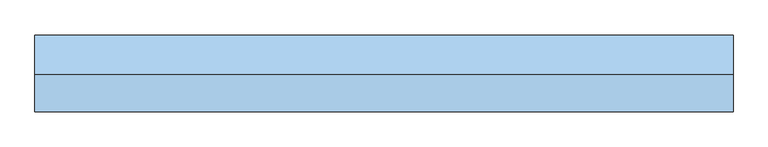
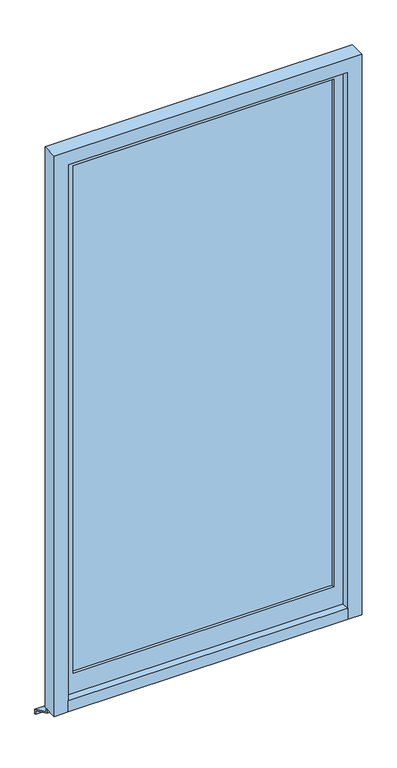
"""IFC4 building model written with IfcOpenShell, lengths in millimetres: window geometry, 380_片開窓_01 : AW2-H2430W1200."""

from ifc_helpers import new_model, si_unit, frame, origin, place, context, project, spatial, polyline, outline, extrude, source, transform, mapped, element, save


def window_c87d65a8(model_context):
    return source(origin(), model_context, "Body", "SweptSolid", [
        extrude(outline(polyline([(2.5, 835.0), (87.5, 795.0), (87.5, 775.0), (82.5014518, 775.0), (82.5014518, 791.8262891), (-2.5, 831.8269723), (-2.5, 850.0), (2.5, 850.0), (2.5, 835.0)])), frame((-660.0, 0.0, 0.0), z_axis=(1.0, 0.0, 0.0), x_axis=(0.0, 1.0, 0.0)), (0.0, 0.0, 1.0), 1320.0),
        extrude(outline(polyline([(560.0, -10.0), (-560.0, -10.0), (-560.0, -5.0), (560.0, -5.0), (560.0, -10.0)])), frame((0.0, 0.0, 990.0), z_axis=(0.0, 0.0, 1.0), x_axis=(1.0, 0.0, 0.0)), (0.0, 0.0, 1.0), 2300.0),
        extrude(outline(polyline([(3330.0, 600.0), (3330.0, -600.0), (900.0, -600.0), (900.0, 600.0), (3330.0, 600.0)]), holes=[polyline([(3290.0, 560.0), (990.0, 560.0), (990.0, -560.0), (3290.0, -560.0), (3290.0, 560.0)])]), frame((0.0, -22.5, 0.0), z_axis=(0.0, 1.0, 0.0), x_axis=(0.0, 0.0, 1.0)), (0.0, 0.0, 1.0), 30.0),
        extrude(outline(polyline([(-57.5, 850.0), (-57.5, 900.0), (12.5, 890.6666667), (12.5, 850.0), (-57.5, 850.0)])), frame((-600.0, 0.0, 0.0), z_axis=(1.0, 0.0, 0.0), x_axis=(0.0, 1.0, 0.0)), (0.0, 0.0, 1.0), 1200.0),
        extrude(outline(polyline([(850.0, -660.0), (850.0, -600.0), (3330.0, -600.0), (3330.0, 600.0), (850.0, 600.0), (850.0, 660.0), (3390.0, 660.0), (3390.0, -660.0), (850.0, -660.0)])), frame((0.0, -57.5, 0.0), z_axis=(0.0, 1.0, 0.0), x_axis=(0.0, 0.0, 1.0)), (0.0, 0.0, 1.0), 70.0),
    ])


if __name__ == "__main__":
    model = new_model("IFC4")
    model_context = context("Model", 3, world=origin())
    ifc_project = project(units=[si_unit("LENGTHUNIT", "METRE", prefix="MILLI")], contexts=[model_context])
    site = spatial("IfcSite", under=ifc_project)
    building = spatial("IfcBuilding", under=site)
    placement = place(None, origin())
    window_shape = window_c87d65a8(model_context)
    element("IfcWindow", 1, ObjectType="380_片開窓_01 : AW2-H2430W1200", at=placement, inside=building, context=model_context, shape_type="MappedRepresentation", body=[
        mapped(window_shape, transform((0.0, 0.0, 0.0), x_axis=(1.0, 0.0, 0.0), y_axis=(0.0, 1.0, 0.0), z_axis=(0.0, 0.0, 1.0))),
    ])
    save(model, "model.ifc")
